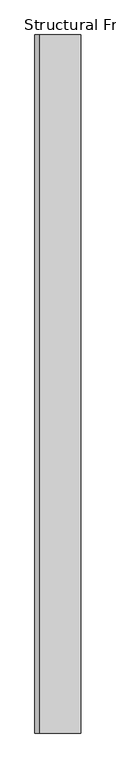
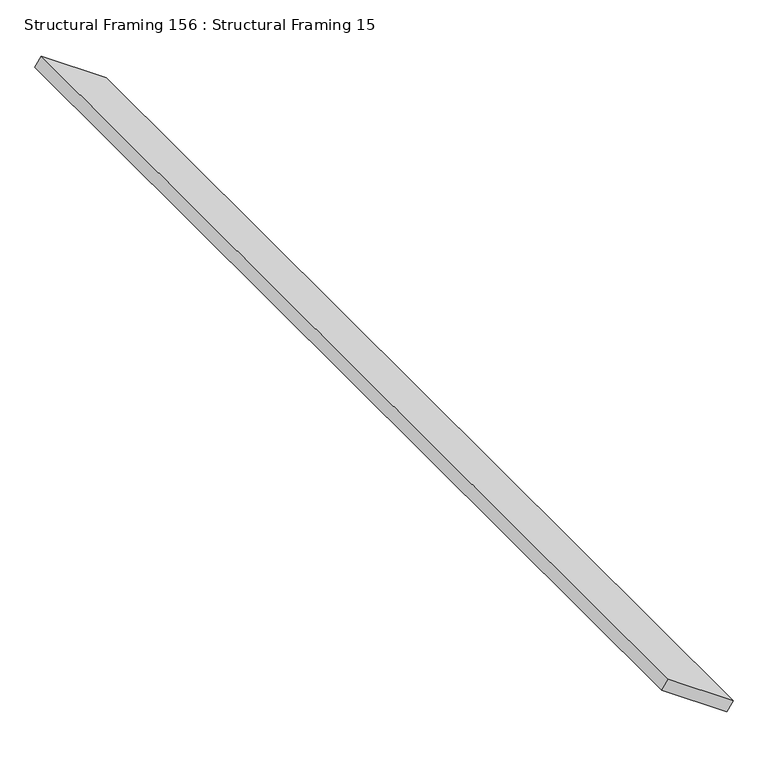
"""IFC4 building model written with IfcOpenShell, lengths in millimetres: beam geometry, Structural Framing 156 : Structural Framing 15."""

from ifc_helpers import new_model, si_unit, frame, origin, place, context, project, spatial, polyline, outline, extrude, source, transform, mapped, element, save


def structural_framing_156_structural_framing_15_8572bb24(model_context):
    return source(origin(), model_context, "Body", "SweptSolid", [
        extrude(outline(polyline([(0.0, -174.3446795), (0.0, 0.0), (2400.0, 0.0), (2400.0, -174.3446795), (0.0, -174.3446795)])), frame((1349.5937079, 3925.5508021, 2700.0), z_axis=(0.5735764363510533, 0.0, 0.8191520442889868), x_axis=(0.0, -1.0, 0.0)), (0.0, 0.0, 1.0), 25.0),
    ])


if __name__ == "__main__":
    model = new_model("IFC4")
    model_context = context("Model", 3, world=origin())
    ifc_project = project(units=[si_unit("LENGTHUNIT", "METRE", prefix="MILLI")], contexts=[model_context])
    site = spatial("IfcSite", under=ifc_project)
    building = spatial("IfcBuilding", under=site)
    placement = place(None, origin())
    structural_framing_156_structural_framing_15_shape = structural_framing_156_structural_framing_15_8572bb24(model_context)
    element("IfcBeam", 1, ObjectType="Structural Framing 156 : Structural Framing 15", at=placement, inside=building, context=model_context, shape_type="MappedRepresentation", body=[
        mapped(structural_framing_156_structural_framing_15_shape, transform((0.0, 0.0, 0.0), x_axis=(1.0, 0.0, 0.0), y_axis=(0.0, 1.0, 0.0), z_axis=(0.0, 0.0, 1.0))),
    ])
    save(model, "model.ifc")
